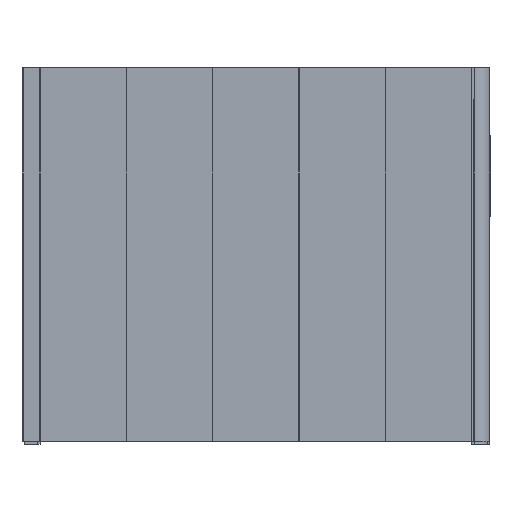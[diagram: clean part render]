
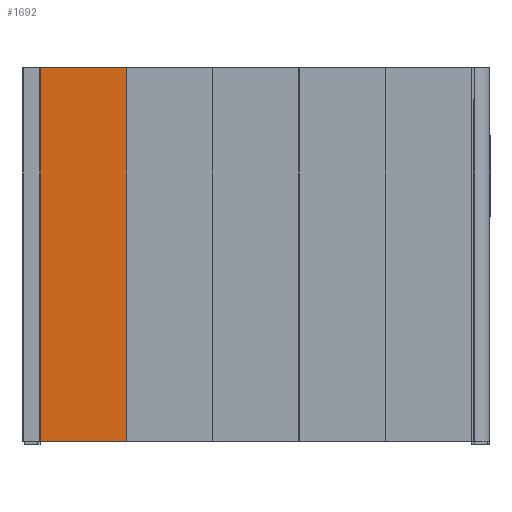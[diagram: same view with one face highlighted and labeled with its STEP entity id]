
A CAD part, left-side view. The second image highlights one B-rep face of the part: STEP entity #1692.
In plain terms, the highlighted planar face has unit normal (-1, 0, 0) as drawn and (1, 0, 0) by its records, which use the part's own axes.
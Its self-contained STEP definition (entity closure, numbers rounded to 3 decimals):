
#1692=ADVANCED_FACE('',(#2779),#16218,.T.);
#2779=FACE_OUTER_BOUND('',#3882,.T.);
#3882=EDGE_LOOP('',(#7614,#7615,#7616,#7617));
#7614=ORIENTED_EDGE('',*,*,#10749,.T.);
#7615=ORIENTED_EDGE('',*,*,#10750,.T.);
#7616=ORIENTED_EDGE('',*,*,#10751,.F.);
#7617=ORIENTED_EDGE('',*,*,#10747,.F.);
#10747=EDGE_CURVE('',#14979,#14980,#13144,.T.);
#10749=EDGE_CURVE('',#14979,#14981,#13146,.T.);
#10750=EDGE_CURVE('',#14981,#14982,#13147,.T.);
#10751=EDGE_CURVE('',#14980,#14982,#13148,.T.);
#13144=B_SPLINE_CURVE_WITH_KNOTS('',1,(#26349,#26350),.UNSPECIFIED.,.F.,
 .F.,(2,2),(0.,2600.),.UNSPECIFIED.);
#13146=B_SPLINE_CURVE_WITH_KNOTS('',1,(#26353,#26354),.UNSPECIFIED.,.F.,
 .F.,(2,2),(608.,1204.),.UNSPECIFIED.);
#13147=B_SPLINE_CURVE_WITH_KNOTS('',1,(#26355,#26356),.UNSPECIFIED.,.F.,
 .F.,(2,2),(0.,2600.),.UNSPECIFIED.);
#13148=B_SPLINE_CURVE_WITH_KNOTS('',1,(#26357,#26358),.UNSPECIFIED.,.F.,
 .F.,(2,2),(608.,1204.),.UNSPECIFIED.);
#14979=VERTEX_POINT('',#26335);
#14980=VERTEX_POINT('',#26336);
#14981=VERTEX_POINT('',#26337);
#14982=VERTEX_POINT('',#26338);
#16218=PLANE('',#18984);
#18984=AXIS2_PLACEMENT_3D('',#26327,#20297,$);
#20297=DIRECTION('',(1.,0.,0.));
#26327=CARTESIAN_POINT('',(-242.,2530.,18.));
#26335=CARTESIAN_POINT('',(-242.,2530.,18.));
#26336=CARTESIAN_POINT('',(-242.,2530.,2618.));
#26337=CARTESIAN_POINT('',(-242.,3126.,18.));
#26338=CARTESIAN_POINT('',(-242.,3126.,2618.));
#26349=CARTESIAN_POINT('',(-242.,2530.,18.));
#26350=CARTESIAN_POINT('',(-242.,2530.,2618.));
#26353=CARTESIAN_POINT('',(-242.,2530.,18.));
#26354=CARTESIAN_POINT('',(-242.,3126.,18.));
#26355=CARTESIAN_POINT('',(-242.,3126.,18.));
#26356=CARTESIAN_POINT('',(-242.,3126.,2618.));
#26357=CARTESIAN_POINT('',(-242.,2530.,2618.));
#26358=CARTESIAN_POINT('',(-242.,3126.,2618.));
